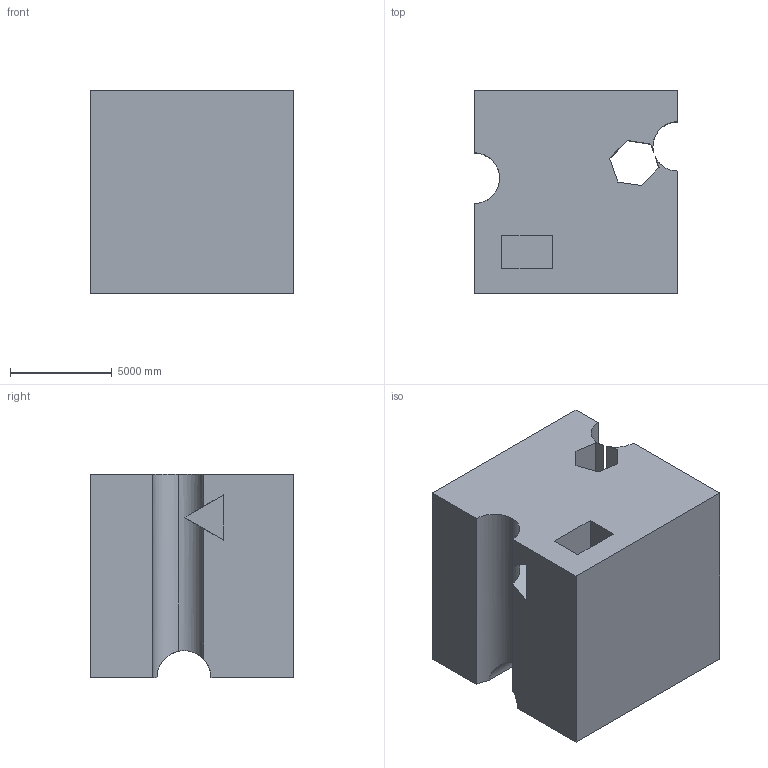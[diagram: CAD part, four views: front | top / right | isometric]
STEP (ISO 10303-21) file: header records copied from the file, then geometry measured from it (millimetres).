
FILE_DESCRIPTION (( 'STEP AP203' ), '1' );
FILE_NAME ('114.STEP', '2022-08-31T11:39:48', ( 'user' ), ( '' ), 'SwSTEP 2.0', 'SolidWorks 2021', '' );
FILE_SCHEMA (( 'CONFIG_CONTROL_DESIGN' ));
Length unit declared in the file: centimetre
Products named in the file (1): 114
Bounding box: 10000 x 10000 x 10000 mm (x, y, z)
Volume: 852378043175.8 mm3; surface area: 765203917.4 mm2
Topology: 1 solids, 1 shells, 34 faces, 93 edges, 62 vertices
Faces by surface type: plane 26, cylinder 8
Entity records: 1371 total; most frequent: CARTESIAN_POINT 450, ORIENTED_EDGE 186, DIRECTION 162, EDGE_CURVE 93, VECTOR 68, LINE 68, VERTEX_POINT 62, AXIS2_PLACEMENT_3D 47
